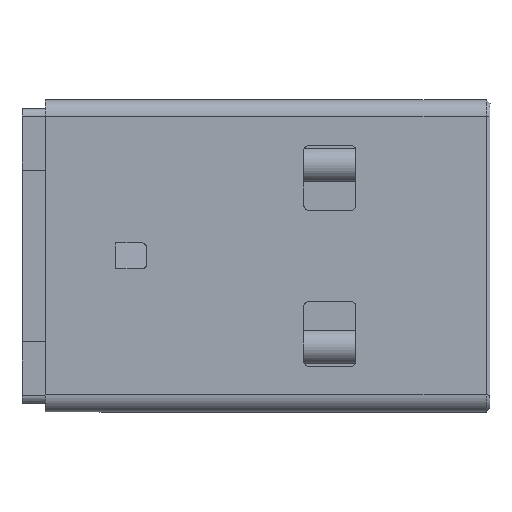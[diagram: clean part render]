
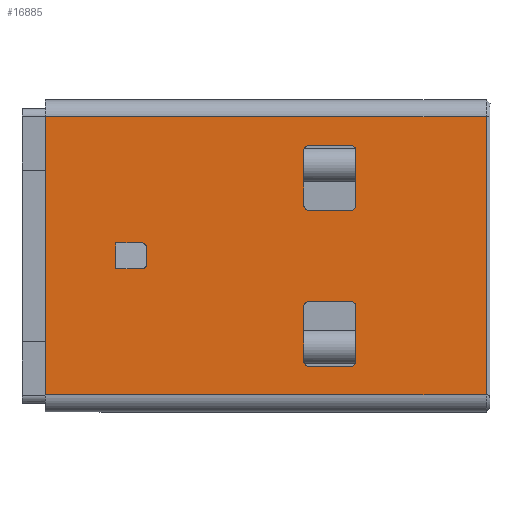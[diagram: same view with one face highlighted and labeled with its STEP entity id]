
A CAD part, top view. The second image highlights one B-rep face of the part: STEP entity #16885.
In plain terms, the highlighted planar face has unit normal (0, 0, 1).
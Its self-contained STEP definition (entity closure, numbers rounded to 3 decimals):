
#13543=DIRECTION('',(1.,0.,0.));
#13544=VECTOR('',#13543,16.95);
#13545=CARTESIAN_POINT('',(1.6,-5.35,4.18));
#13546=LINE('',#13545,#13544);
#14161=DIRECTION('',(0.,-1.,0.));
#14162=VECTOR('',#14161,10.7);
#14163=CARTESIAN_POINT('',(18.55,5.35,4.18));
#14164=LINE('',#14163,#14162);
#14165=DIRECTION('',(0.,1.,0.));
#14166=VECTOR('',#14165,10.7);
#14167=CARTESIAN_POINT('',(1.6,-5.35,4.18));
#14168=LINE('',#14167,#14166);
#14169=CARTESIAN_POINT('',(13.34,4.05,4.18));
#14170=DIRECTION('',(0.,0.,1.));
#14171=DIRECTION('',(1.,0.,0.));
#14172=AXIS2_PLACEMENT_3D('',#14169,#14170,#14171);
#14174=DIRECTION('',(-1.,0.,0.));
#14175=VECTOR('',#14174,1.6);
#14176=CARTESIAN_POINT('',(13.34,4.25,4.18));
#14177=LINE('',#14176,#14175);
#14178=CARTESIAN_POINT('',(11.74,4.05,4.18));
#14179=DIRECTION('',(0.,0.,1.));
#14180=DIRECTION('',(0.,1.,0.));
#14181=AXIS2_PLACEMENT_3D('',#14178,#14179,#14180);
#14183=DIRECTION('',(0.,-1.,0.));
#14184=VECTOR('',#14183,2.1);
#14185=CARTESIAN_POINT('',(11.54,4.05,4.18));
#14186=LINE('',#14185,#14184);
#14187=CARTESIAN_POINT('',(11.74,1.95,4.18));
#14188=DIRECTION('',(0.,0.,1.));
#14189=DIRECTION('',(-1.,0.,0.));
#14190=AXIS2_PLACEMENT_3D('',#14187,#14188,#14189);
#14192=DIRECTION('',(1.,0.,0.));
#14193=VECTOR('',#14192,1.6);
#14194=CARTESIAN_POINT('',(11.74,1.75,4.18));
#14195=LINE('',#14194,#14193);
#14196=CARTESIAN_POINT('',(13.34,1.95,4.18));
#14197=DIRECTION('',(0.,0.,1.));
#14198=DIRECTION('',(0.,-1.,0.));
#14199=AXIS2_PLACEMENT_3D('',#14196,#14197,#14198);
#14201=DIRECTION('',(0.,1.,0.));
#14202=VECTOR('',#14201,2.1);
#14203=CARTESIAN_POINT('',(13.54,1.95,4.18));
#14204=LINE('',#14203,#14202);
#14205=CARTESIAN_POINT('',(13.34,-1.95,4.18));
#14206=DIRECTION('',(0.,0.,1.));
#14207=DIRECTION('',(1.,0.,0.));
#14208=AXIS2_PLACEMENT_3D('',#14205,#14206,#14207);
#14210=CARTESIAN_POINT('',(11.74,-1.95,4.18));
#14211=DIRECTION('',(0.,0.,1.));
#14212=DIRECTION('',(0.,1.,0.));
#14213=AXIS2_PLACEMENT_3D('',#14210,#14211,#14212);
#14215=CARTESIAN_POINT('',(11.74,-4.05,4.18));
#14216=DIRECTION('',(0.,0.,1.));
#14217=DIRECTION('',(-1.,0.,0.));
#14218=AXIS2_PLACEMENT_3D('',#14215,#14216,#14217);
#14220=CARTESIAN_POINT('',(13.34,-4.05,4.18));
#14221=DIRECTION('',(0.,0.,1.));
#14222=DIRECTION('',(0.,-1.,0.));
#14223=AXIS2_PLACEMENT_3D('',#14220,#14221,#14222);
#14225=DIRECTION('',(-1.,0.,0.));
#14226=VECTOR('',#14225,1.);
#14227=CARTESIAN_POINT('',(5.3,0.5,4.18));
#14228=LINE('',#14227,#14226);
#14229=DIRECTION('',(0.,-1.,0.));
#14230=VECTOR('',#14229,1.);
#14231=CARTESIAN_POINT('',(4.3,0.5,4.18));
#14232=LINE('',#14231,#14230);
#14233=DIRECTION('',(1.,0.,0.));
#14234=VECTOR('',#14233,1.);
#14235=CARTESIAN_POINT('',(4.3,-0.5,4.18));
#14236=LINE('',#14235,#14234);
#14237=CARTESIAN_POINT('',(5.3,-0.3,4.18));
#14238=DIRECTION('',(0.,0.,1.));
#14239=DIRECTION('',(0.,-1.,0.));
#14240=AXIS2_PLACEMENT_3D('',#14237,#14238,#14239);
#14242=CARTESIAN_POINT('',(5.3,0.3,4.18));
#14243=DIRECTION('',(0.,0.,1.));
#14244=DIRECTION('',(1.,0.,0.));
#14245=AXIS2_PLACEMENT_3D('',#14242,#14243,#14244);
#14247=DIRECTION('',(-1.,0.,0.));
#14248=VECTOR('',#14247,16.95);
#14249=CARTESIAN_POINT('',(18.55,5.35,4.18));
#14250=LINE('',#14249,#14248);
#14845=DIRECTION('',(0.,-1.,0.));
#14846=VECTOR('',#14845,2.1);
#14847=CARTESIAN_POINT('',(13.54,-1.95,4.18));
#14848=LINE('',#14847,#14846);
#14857=DIRECTION('',(1.,0.,0.));
#14858=VECTOR('',#14857,1.6);
#14859=CARTESIAN_POINT('',(11.74,-1.75,4.18));
#14860=LINE('',#14859,#14858);
#14869=DIRECTION('',(0.,1.,0.));
#14870=VECTOR('',#14869,2.1);
#14871=CARTESIAN_POINT('',(11.54,-4.05,4.18));
#14872=LINE('',#14871,#14870);
#14881=DIRECTION('',(-1.,0.,0.));
#14882=VECTOR('',#14881,1.6);
#14883=CARTESIAN_POINT('',(13.34,-4.25,4.18));
#14884=LINE('',#14883,#14882);
#14981=DIRECTION('',(0.,-1.,0.));
#14982=VECTOR('',#14981,0.6);
#14983=CARTESIAN_POINT('',(5.5,0.3,4.18));
#14984=LINE('',#14983,#14982);
#15043=CARTESIAN_POINT('',(1.6,5.35,4.18));
#15044=VERTEX_POINT('',#15043);
#15045=CARTESIAN_POINT('',(1.6,-5.35,4.18));
#15046=VERTEX_POINT('',#15045);
#15161=CARTESIAN_POINT('',(18.55,-5.35,4.18));
#15162=VERTEX_POINT('',#15161);
#15339=CARTESIAN_POINT('',(18.55,5.35,4.18));
#15340=VERTEX_POINT('',#15339);
#15341=CARTESIAN_POINT('',(13.54,4.05,4.18));
#15342=CARTESIAN_POINT('',(13.34,4.25,4.18));
#15343=VERTEX_POINT('',#15341);
#15344=VERTEX_POINT('',#15342);
#15345=CARTESIAN_POINT('',(11.74,4.25,4.18));
#15346=VERTEX_POINT('',#15345);
#15347=CARTESIAN_POINT('',(11.54,4.05,4.18));
#15348=VERTEX_POINT('',#15347);
#15349=CARTESIAN_POINT('',(11.54,1.95,4.18));
#15350=VERTEX_POINT('',#15349);
#15351=CARTESIAN_POINT('',(11.74,1.75,4.18));
#15352=VERTEX_POINT('',#15351);
#15353=CARTESIAN_POINT('',(13.34,1.75,4.18));
#15354=VERTEX_POINT('',#15353);
#15355=CARTESIAN_POINT('',(13.54,1.95,4.18));
#15356=VERTEX_POINT('',#15355);
#15357=CARTESIAN_POINT('',(13.54,-1.95,4.18));
#15358=CARTESIAN_POINT('',(13.54,-4.05,4.18));
#15359=VERTEX_POINT('',#15357);
#15360=VERTEX_POINT('',#15358);
#15361=CARTESIAN_POINT('',(13.34,-1.75,4.18));
#15362=VERTEX_POINT('',#15361);
#15363=CARTESIAN_POINT('',(11.74,-1.75,4.18));
#15364=VERTEX_POINT('',#15363);
#15365=CARTESIAN_POINT('',(11.54,-1.95,4.18));
#15366=VERTEX_POINT('',#15365);
#15367=CARTESIAN_POINT('',(11.54,-4.05,4.18));
#15368=VERTEX_POINT('',#15367);
#15369=CARTESIAN_POINT('',(11.74,-4.25,4.18));
#15370=VERTEX_POINT('',#15369);
#15371=CARTESIAN_POINT('',(13.34,-4.25,4.18));
#15372=VERTEX_POINT('',#15371);
#15537=CARTESIAN_POINT('',(5.3,0.5,4.18));
#15538=CARTESIAN_POINT('',(4.3,0.5,4.18));
#15539=VERTEX_POINT('',#15537);
#15540=VERTEX_POINT('',#15538);
#15541=CARTESIAN_POINT('',(4.3,-0.5,4.18));
#15542=VERTEX_POINT('',#15541);
#15543=CARTESIAN_POINT('',(5.3,-0.5,4.18));
#15544=VERTEX_POINT('',#15543);
#15545=CARTESIAN_POINT('',(5.5,-0.3,4.18));
#15546=VERTEX_POINT('',#15545);
#15547=CARTESIAN_POINT('',(5.5,0.3,4.18));
#15548=VERTEX_POINT('',#15547);
#16823=CARTESIAN_POINT('',(9.195,0.,4.18));
#16824=DIRECTION('',(0.,0.,1.));
#16825=DIRECTION('',(0.,-1.,0.));
#16826=AXIS2_PLACEMENT_3D('',#16823,#16824,#16825);
#16827=PLANE('',#16826);
#16828=ORIENTED_EDGE('',*,*,#16816,.T.);
#16829=ORIENTED_EDGE('',*,*,#16025,.F.);
#16830=ORIENTED_EDGE('',*,*,#15665,.T.);
#16832=ORIENTED_EDGE('',*,*,#16831,.F.);
#16833=EDGE_LOOP('',(#16828,#16829,#16830,#16832));
#16834=FACE_OUTER_BOUND('',#16833,.F.);
#16836=ORIENTED_EDGE('',*,*,#16835,.T.);
#16838=ORIENTED_EDGE('',*,*,#16837,.T.);
#16840=ORIENTED_EDGE('',*,*,#16839,.T.);
#16842=ORIENTED_EDGE('',*,*,#16841,.T.);
#16844=ORIENTED_EDGE('',*,*,#16843,.T.);
#16846=ORIENTED_EDGE('',*,*,#16845,.T.);
#16848=ORIENTED_EDGE('',*,*,#16847,.T.);
#16850=ORIENTED_EDGE('',*,*,#16849,.T.);
#16851=EDGE_LOOP('',(#16836,#16838,#16840,#16842,#16844,#16846,#16848,#16850));
#16852=FACE_BOUND('',#16851,.F.);
#16854=ORIENTED_EDGE('',*,*,#16853,.F.);
#16856=ORIENTED_EDGE('',*,*,#16855,.T.);
#16858=ORIENTED_EDGE('',*,*,#16857,.F.);
#16860=ORIENTED_EDGE('',*,*,#16859,.T.);
#16862=ORIENTED_EDGE('',*,*,#16861,.F.);
#16864=ORIENTED_EDGE('',*,*,#16863,.T.);
#16866=ORIENTED_EDGE('',*,*,#16865,.F.);
#16868=ORIENTED_EDGE('',*,*,#16867,.T.);
#16869=EDGE_LOOP('',(#16854,#16856,#16858,#16860,#16862,#16864,#16866,#16868));
#16870=FACE_BOUND('',#16869,.F.);
#16872=ORIENTED_EDGE('',*,*,#16871,.T.);
#16874=ORIENTED_EDGE('',*,*,#16873,.T.);
#16876=ORIENTED_EDGE('',*,*,#16875,.T.);
#16878=ORIENTED_EDGE('',*,*,#16877,.T.);
#16880=ORIENTED_EDGE('',*,*,#16879,.F.);
#16882=ORIENTED_EDGE('',*,*,#16881,.T.);
#16883=EDGE_LOOP('',(#16872,#16874,#16876,#16878,#16880,#16882));
#16884=FACE_BOUND('',#16883,.F.);
#16885=ADVANCED_FACE('',(#16834,#16852,#16870,#16884),#16827,.T.);
#14173=CIRCLE('',#14172,0.2);
#14182=CIRCLE('',#14181,0.2);
#14191=CIRCLE('',#14190,0.2);
#14200=CIRCLE('',#14199,0.2);
#14209=CIRCLE('',#14208,0.2);
#14214=CIRCLE('',#14213,0.2);
#14219=CIRCLE('',#14218,0.2);
#14224=CIRCLE('',#14223,0.2);
#14241=CIRCLE('',#14240,0.2);
#14246=CIRCLE('',#14245,0.2);
#15665=EDGE_CURVE('',#15046,#15044,#14168,.T.);
#16025=EDGE_CURVE('',#15046,#15162,#13546,.T.);
#16816=EDGE_CURVE('',#15340,#15162,#14164,.T.);
#16831=EDGE_CURVE('',#15340,#15044,#14250,.T.);
#16835=EDGE_CURVE('',#15343,#15344,#14173,.T.);
#16837=EDGE_CURVE('',#15344,#15346,#14177,.T.);
#16839=EDGE_CURVE('',#15346,#15348,#14182,.T.);
#16841=EDGE_CURVE('',#15348,#15350,#14186,.T.);
#16843=EDGE_CURVE('',#15350,#15352,#14191,.T.);
#16845=EDGE_CURVE('',#15352,#15354,#14195,.T.);
#16847=EDGE_CURVE('',#15354,#15356,#14200,.T.);
#16849=EDGE_CURVE('',#15356,#15343,#14204,.T.);
#16853=EDGE_CURVE('',#15359,#15360,#14848,.T.);
#16855=EDGE_CURVE('',#15359,#15362,#14209,.T.);
#16857=EDGE_CURVE('',#15364,#15362,#14860,.T.);
#16859=EDGE_CURVE('',#15364,#15366,#14214,.T.);
#16861=EDGE_CURVE('',#15368,#15366,#14872,.T.);
#16863=EDGE_CURVE('',#15368,#15370,#14219,.T.);
#16865=EDGE_CURVE('',#15372,#15370,#14884,.T.);
#16867=EDGE_CURVE('',#15372,#15360,#14224,.T.);
#16871=EDGE_CURVE('',#15539,#15540,#14228,.T.);
#16873=EDGE_CURVE('',#15540,#15542,#14232,.T.);
#16875=EDGE_CURVE('',#15542,#15544,#14236,.T.);
#16877=EDGE_CURVE('',#15544,#15546,#14241,.T.);
#16879=EDGE_CURVE('',#15548,#15546,#14984,.T.);
#16881=EDGE_CURVE('',#15548,#15539,#14246,.T.);
